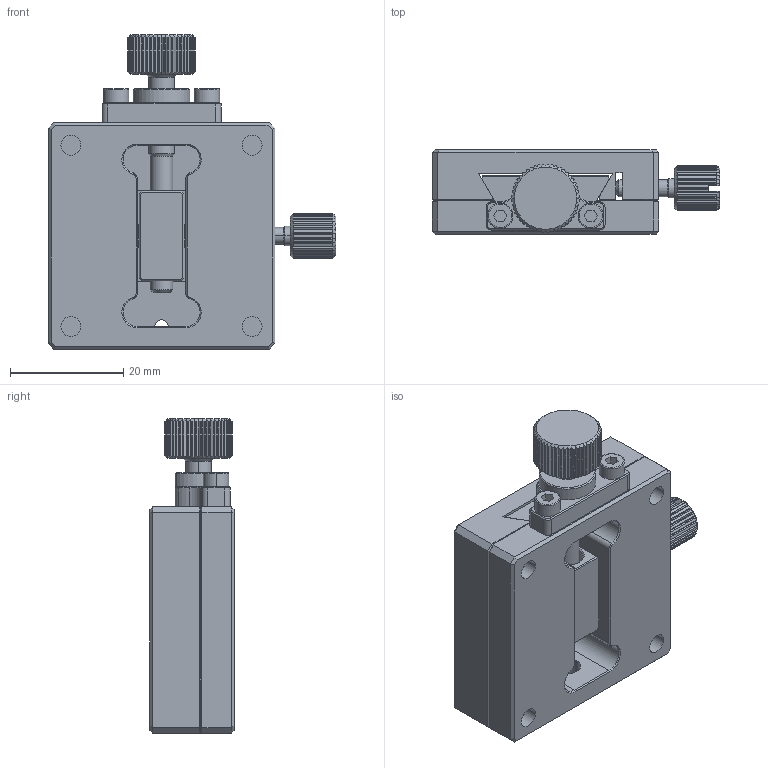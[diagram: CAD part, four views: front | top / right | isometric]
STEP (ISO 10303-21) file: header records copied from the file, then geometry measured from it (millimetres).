
FILE_DESCRIPTION((''),'2;1');
FILE_NAME('ASSY-40-R_ASM','2021-06-24T16:47:43',('windows10'),(''),'CREO PARAMETRIC BY PTC INC, 2018260','CREO PARAMETRIC BY PTC INC, 2018260','');
FILE_SCHEMA(('CONFIG_CONTROL_DESIGN'));
Length unit declared in the file: millimetre
Products named in the file (13): BOTTOM-40-40-15; TOP-40-40-15; COUPLER-4060; SCREW-M2D5-4; HANDLE-12-M4-45D5; HOLDER-HANDLE; E-RING-3-7; ASSY-HANDLE-12-M4-45D5_ASM; 2D5-10; 3-5-NOHEAD; BALL-2D381; STOPPER-8-M3-16; ASSY-40-R_ASM
Assembly tree (17 placements, depth 3):
  ASSY-40-R_ASM
    BOTTOM-40-40-15
    TOP-40-40-15
    COUPLER-4060
    SCREW-M2D5-4  x2
    ASSY-HANDLE-12-M4-45D5_ASM
      HANDLE-12-M4-45D5
      HOLDER-HANDLE
      E-RING-3-7
    2D5-10  x2
    3-5-NOHEAD  x4
    BALL-2D381
    STOPPER-8-M3-16
Bounding box: 50.75 x 14.9 x 55.5 mm (x, y, z)
Volume: 21989.1 mm3; surface area: 15578.9 mm2
Topology: 16 solids, 16 shells, 819 faces, 2075 edges, 1308 vertices
Faces by surface type: plane 413, cylinder 253, cone 135, torus 12, sphere 6
Entity records: 23229 total; most frequent: CARTESIAN_POINT 5263, ORIENTED_EDGE 3746, DIRECTION 3668, EDGE_CURVE 1873, AXIS2_PLACEMENT_3D 1377, VERTEX_POINT 1184, VECTOR 914, LINE 914
